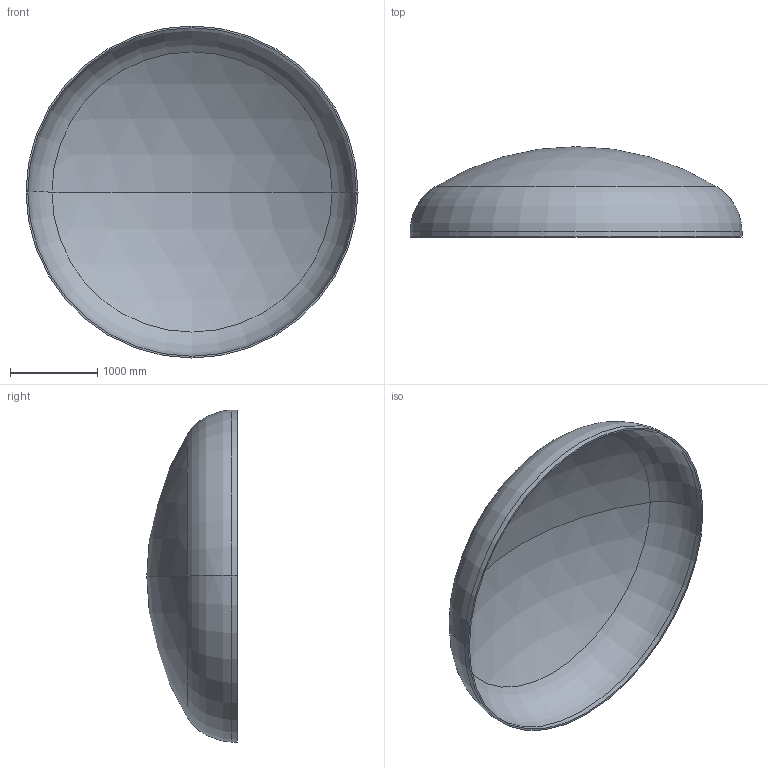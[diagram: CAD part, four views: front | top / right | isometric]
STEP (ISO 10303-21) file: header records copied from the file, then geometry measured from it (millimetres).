
FILE_DESCRIPTION (( 'STEP AP203' ), '1' );
FILE_NAME ('DIN 28013 Korbbogenform_-_Boden DIN 28013 - 3800 x 60 - I - s=20.step', '2016-07-01T21:08:34', ( '' ), ( '' ), 'SwSTEP 2.0', 'SolidWorks 2013', '' );
FILE_SCHEMA (( 'CONFIG_CONTROL_DESIGN' ));
Length unit declared in the file: millimetre
Products named in the file (1): DIN 28013 Korbbogenform_-_Boden DIN 28013 - 3800 x 60 - I - s=20
Bounding box: 3800 x 1034.33 x 3800 mm (x, y, z)
Volume: 326207652 mm3; surface area: 32859094.5 mm2
Topology: 1 solids, 1 shells, 13 faces, 24 edges, 14 vertices
Faces by surface type: torus 4, cylinder 4, sphere 4, plane 1
Entity records: 407 total; most frequent: DIRECTION 72, CARTESIAN_POINT 52, ORIENTED_EDGE 48, AXIS2_PLACEMENT_3D 34, EDGE_CURVE 24, CIRCLE 20, VERTEX_POINT 14, EDGE_LOOP 14
